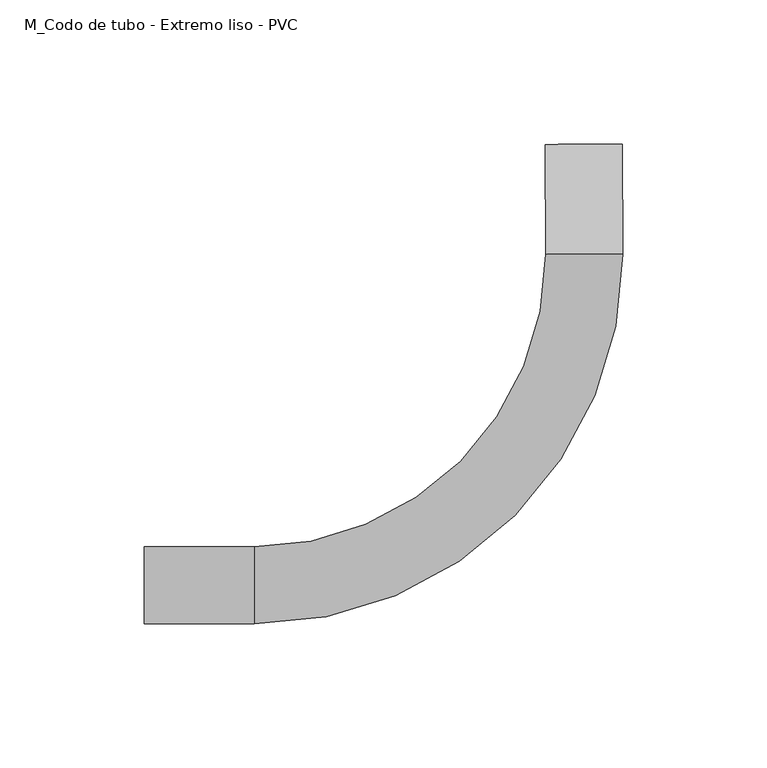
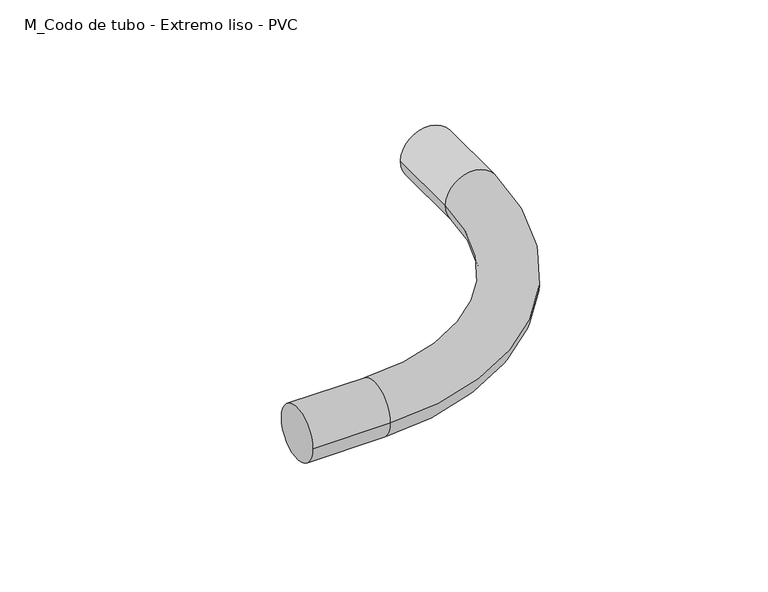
"""IFC4 building model written with IfcOpenShell, lengths in millimetres: cable carrier fitting geometry, M_Codo de tubo - Extremo liso - PVC : CODO POTENCIA."""

from ifc_helpers import new_model, si_unit, point, frame, origin, place, context, project, spatial, circle_curve, ellipse_curve, trimmed, source, transform, mapped, element, save
from ifc_brep_helpers import plane_surface, cylinder_surface, revolved_surface, advanced_brep


def m_codo_de_tubo_extremo_liso_pvc_b8f63c1c(model_context):
    return source(origin(), model_context, "Body", "AdvancedBrep", [
        advanced_brep(
        [(-152.7225155, -13.335, 0.0), (-152.7225155, 13.335, 0.0), (-114.6225155, -13.335, 0.0), (-114.6225155, 13.335, 0.0), (-13.6579163, 114.5844868, 0.0), (13.0119778, 114.6596342, 0.0), (12.9046243, 152.759483, 0.0), (-13.7652698, 152.6843355, 0.0)],
        [
            (0, 1, circle_curve(frame((-152.7225155, 0.0, 0.0), z_axis=(-1.0, 0.0, 0.0), x_axis=(0.0, 1.0, 0.0)), 13.335)),
            (1, 0, circle_curve(frame((-152.7225155, 0.0, 0.0), z_axis=(-1.0, 0.0, 0.0), x_axis=(0.0, 1.0, 0.0)), 13.335)),
            (0, 2),
            (2, 3, circle_curve(frame((-114.6225155, 0.0, 0.0), z_axis=(-1.0, 0.0, 0.0), x_axis=(0.0, 1.0, 0.0)), 13.335)),
            (3, 1),
            (3, 2, circle_curve(frame((-114.6225155, 0.0, 0.0), z_axis=(-1.0, 0.0, 0.0), x_axis=(0.0, 1.0, 0.0)), 13.335)),
            (4, 3, circle_curve(frame((-114.6225155, 114.3, 0.0), z_axis=(0.0, 0.0, -1.0), x_axis=(0.0, -1.0, 0.0)), 100.965)),
            (2, 5, circle_curve(frame((-114.6225155, 114.3, 0.0), z_axis=(0.0, 0.0, 1.0), x_axis=(0.0, -1.0, 0.0)), 127.635)),
            (5, 4, circle_curve(frame((-0.3229692, 114.6220605, 0.0), z_axis=(0.002817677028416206, -0.9999960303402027, 0.0), x_axis=(-0.9999960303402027, -0.002817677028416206, 0.0)), 13.335)),
            (4, 5, circle_curve(frame((-0.3229692, 114.6220605, 0.0), z_axis=(0.002817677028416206, -0.9999960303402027, 0.0), x_axis=(-0.9999960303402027, -0.002817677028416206, 0.0)), 13.335)),
            (6, 7, circle_curve(frame((-0.4303227, 152.7219092, 0.0), z_axis=(-0.002817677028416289, 0.9999960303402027, 0.0), x_axis=(-0.9999960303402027, -0.002817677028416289, 0.0)), 13.335)),
            (7, 6, circle_curve(frame((-0.4303227, 152.7219092, 0.0), z_axis=(-0.002817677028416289, 0.9999960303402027, 0.0), x_axis=(-0.9999960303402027, -0.002817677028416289, 0.0)), 13.335)),
            (5, 6),
            (7, 4),
        ],
        [
            plane_surface(frame((-152.7225155, 0.0, 0.0), z_axis=(-1.0, 0.0, 0.0), x_axis=(0.0, 0.0, 1.0))),
            cylinder_surface(frame((-152.7225155, 0.0, 0.0), z_axis=(-1.0, 0.0, 0.0), x_axis=(0.0, 1.0, 0.0)), 13.335),
            revolved_surface(trimmed(ellipse_curve(frame((-114.6225155, 0.0, 0.0), z_axis=(-1.0, 0.0, 0.0), x_axis=(0.0, 1.0, 0.0)), 13.335, 13.335), [point((-114.6225155, -13.335, 0.0))], [point((-114.6225155, 13.335, 0.0))], True, "CARTESIAN"), (-114.6225155, 114.3, 0.0), (0.0, 0.0, 1.0)),
            revolved_surface(trimmed(ellipse_curve(frame((-114.6225155, 0.0, 0.0), z_axis=(-1.0, 0.0, 0.0), x_axis=(0.0, 1.0, 0.0)), 13.335, 13.335), [point((-114.6225155, 13.335, 0.0))], [point((-114.6225155, -13.335, 0.0))], True, "CARTESIAN"), (-114.6225155, 114.3, 0.0), (0.0, 0.0, 1.0)),
            plane_surface(frame((-0.4303227, 152.7219092, 0.0), z_axis=(-0.002817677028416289, 0.9999960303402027, 0.0), x_axis=(0.0, 0.0, 1.0))),
            cylinder_surface(frame((-0.3229692, 114.6220605, 0.0), z_axis=(0.002817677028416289, -0.9999960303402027, 0.0), x_axis=(-0.9999960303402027, -0.002817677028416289, 0.0)), 13.335),
        ],
        [
            (0, [[1, 2]]),
            (1, [[-1, 3, 4, 5]]),
            (1, [[-2, -5, 6, -3]]),
            (2, [[7, -4, 8, 9]]),
            (3, [[-8, -6, -7, 10]]),
            (4, [[11, 12]]),
            (5, [[-9, 13, -12, 14]]),
            (5, [[-10, -14, -11, -13]]),
        ],
    ),
    ])


if __name__ == "__main__":
    model = new_model("IFC4")
    model_context = context("Model", 3, world=origin())
    ifc_project = project(units=[si_unit("LENGTHUNIT", "METRE", prefix="MILLI")], contexts=[model_context])
    site = spatial("IfcSite", under=ifc_project)
    building = spatial("IfcBuilding", under=site)
    placement = place(None, origin())
    m_codo_de_tubo_extremo_liso_pvc_shape = m_codo_de_tubo_extremo_liso_pvc_b8f63c1c(model_context)
    element("IfcCableCarrierFitting", 1, ObjectType="M_Codo de tubo - Extremo liso - PVC : CODO POTENCIA", at=placement, inside=building, context=model_context, shape_type="MappedRepresentation", body=[
        mapped(m_codo_de_tubo_extremo_liso_pvc_shape, transform((0.0, 0.0, 0.0), x_axis=(1.0, 0.0, 0.0), y_axis=(0.0, 1.0, 0.0), z_axis=(0.0, 0.0, 1.0))),
    ])
    save(model, "model.ifc")
